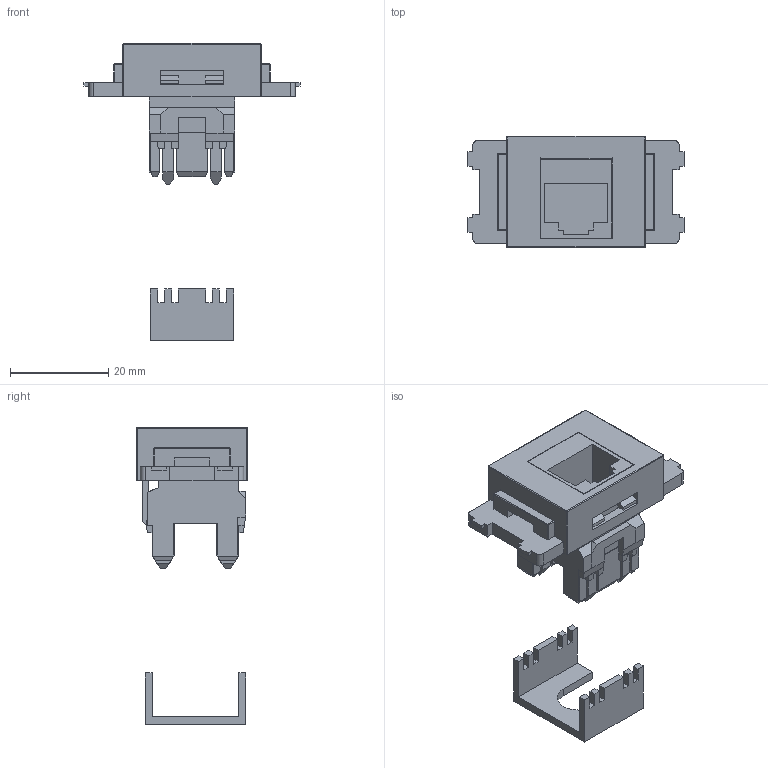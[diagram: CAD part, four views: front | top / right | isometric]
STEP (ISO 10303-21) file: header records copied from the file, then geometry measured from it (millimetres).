
FILE_DESCRIPTION(('FreeCAD Model'),'2;1');
FILE_NAME('Open CASCADE Shape Model','2026-05-12T10:33:09',(''),(''), 'Open CASCADE STEP processor 7.8','FreeCAD','Unknown');
FILE_SCHEMA(('AUTOMOTIVE_DESIGN { 1 0 10303 214 1 1 1 1 }'));
Length unit declared in the file: millimetre
Products named in the file (3): CC_C6A_PD_WH_KH; SY-NWT-KH-xx; 3013AKHA6AWH
Assembly tree (2 placements, depth 2):
  CC_C6A_PD_WH_KH
    SY-NWT-KH-xx
    3013AKHA6AWH
Bounding box: 43.95 x 22.65 x 60.42 mm (x, y, z)
Volume: 9431.4 mm3; surface area: 9198.8 mm2
Topology: 3 solids, 3 shells, 425 faces, 2878 edges, 7588 vertices
Faces by surface type: bspline 425
Entity records: 44573 total; most frequent: CARTESIAN_POINT 27315, B_SPLINE_CURVE_WITH_KNOTS 2878, ORIENTED_EDGE 2336, GEOMETRIC_CURVE_SET 1711, TRIMMED_CURVE 1710, EDGE_CURVE 1168, VERTEX_POINT 748, STYLED_ITEM 551
